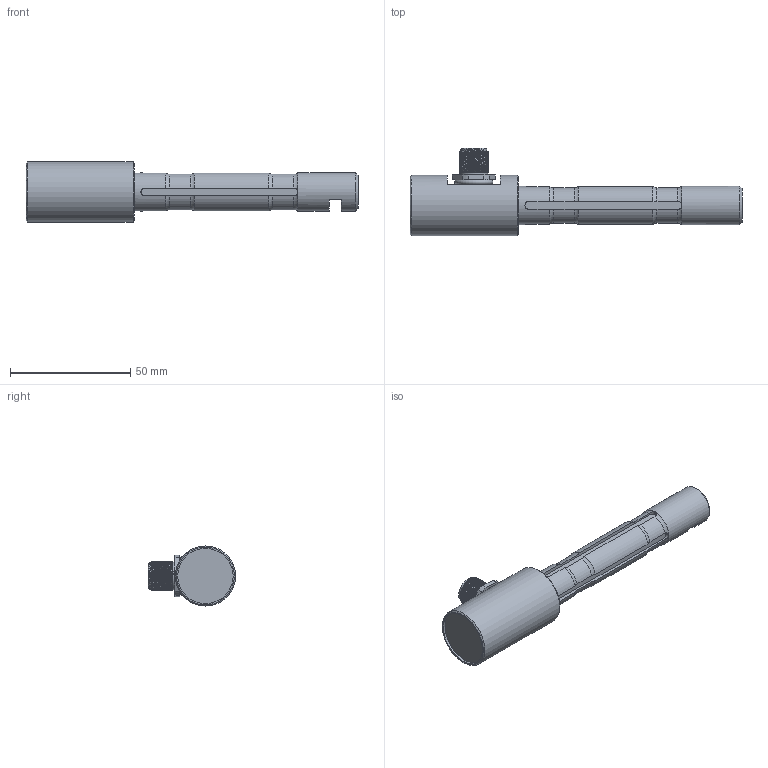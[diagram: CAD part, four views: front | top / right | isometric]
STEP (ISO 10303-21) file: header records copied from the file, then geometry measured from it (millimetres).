
FILE_DESCRIPTION(/* description */ ('Alibre Inc.'),/* implementation_level */ '2;1');
FILE_NAME(/* name */ 'export-DE805F29-B6FF-4E86-B111-19012FE6FFD1',/* time_stamp */ '2019-04-02T12:46:18+02:00',/* author */ (''),/* organization */ (''),/* preprocessor_version */ 'ST-DEVELOPER v17',/* originating_system */ 'Alibre',/* authorisation */ '');
FILE_SCHEMA (('CONFIG_CONTROL_DESIGN'));
Length unit declared in the file: centimetre
Products named in the file (3): ID_1; ID_2
Bounding box: 138 x 36.17 x 25 mm (x, y, z)
Volume: 37804.4 mm3; surface area: 13061.4 mm2
Topology: 9 solids, 10 shells, 246 faces, 599 edges, 384 vertices
Faces by surface type: plane 116, cylinder 80, bspline 23, torus 18, cone 9
Full cylindrical faces by diameter (mm): 0.5 x16, 8 x2, 10 x1, 11 x1, 11.5 x1, 13 x2, 14.5 x1, 16 x2, 23 x1, 25 x1
Entity records: 17435 total; most frequent: CARTESIAN_POINT 12351, ORIENTED_EDGE 1098, DIRECTION 720, EDGE_CURVE 539, VERTEX_POINT 362, EDGE_LOOP 315, FACE_BOUND 315, AXIS2_PLACEMENT_3D 292
